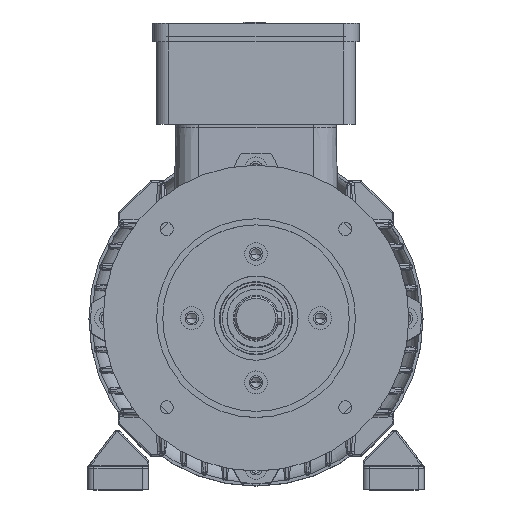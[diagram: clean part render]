
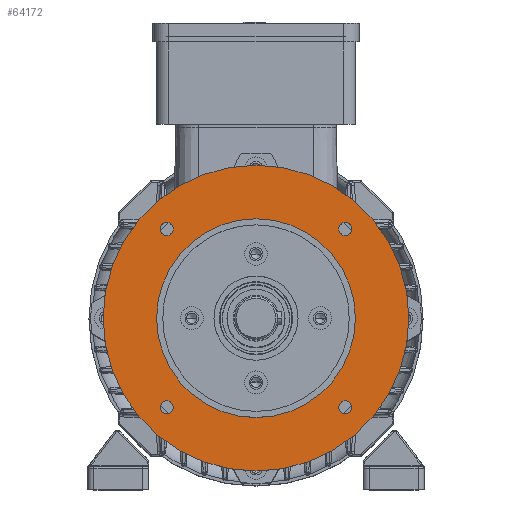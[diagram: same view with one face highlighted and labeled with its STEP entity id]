
A CAD part, top view. The second image highlights one B-rep face of the part: STEP entity #64172.
In plain terms, the highlighted planar face has unit normal (0, 0, 1).
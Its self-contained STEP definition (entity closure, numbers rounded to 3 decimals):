
#4337 = ORIENTED_EDGE ( 'NONE', *, *, #162325, .F. ) ;
#4818 = CIRCLE ( 'NONE', #63477, 4.25 ) ;
#4887 = VERTEX_POINT ( 'NONE', #17469 ) ;
#5152 = EDGE_CURVE ( 'NONE', #78979, #149502, #160268, .T. ) ;
#5793 = EDGE_LOOP ( 'NONE', ( #7430, #21487 ) ) ;
#6451 = CIRCLE ( 'NONE', #62530, 65. ) ;
#7430 = ORIENTED_EDGE ( 'NONE', *, *, #29815, .F. ) ;
#7542 = EDGE_CURVE ( 'NONE', #13965, #4887, #30207, .T. ) ;
#8618 = CARTESIAN_POINT ( 'NONE',  ( 58.336, -58.336, 165. ) ) ;
#9003 = ORIENTED_EDGE ( 'NONE', *, *, #145774, .F. ) ;
#10429 = VERTEX_POINT ( 'NONE', #141066 ) ;
#10935 = EDGE_CURVE ( 'NONE', #90461, #61532, #22640, .T. ) ;
#13743 = CARTESIAN_POINT ( 'NONE',  ( 0., 0., 165. ) ) ;
#13884 = VERTEX_POINT ( 'NONE', #31772 ) ;
#13965 = VERTEX_POINT ( 'NONE', #80776 ) ;
#14013 = DIRECTION ( 'NONE',  ( 1., 0., 0. ) ) ;
#14115 = CIRCLE ( 'NONE', #81591, 4.25 ) ;
#16010 = CARTESIAN_POINT ( 'NONE',  ( 0., 65., 165. ) ) ;
#16547 = ORIENTED_EDGE ( 'NONE', *, *, #30844, .F. ) ;
#17469 = CARTESIAN_POINT ( 'NONE',  ( -65., 0., 165. ) ) ;
#21487 = ORIENTED_EDGE ( 'NONE', *, *, #5152, .F. ) ;
#22192 = DIRECTION ( 'NONE',  ( 0., 0., 1. ) ) ;
#22548 = CARTESIAN_POINT ( 'NONE',  ( -100., 0., 165. ) ) ;
#22640 = CIRCLE ( 'NONE', #70260, 100. ) ;
#22967 = DIRECTION ( 'NONE',  ( 1., 0., 0. ) ) ;
#23935 = FACE_BOUND ( 'NONE', #132018, .T. ) ;
#24305 = DIRECTION ( 'NONE',  ( 1., 0., 0. ) ) ;
#25478 = DIRECTION ( 'NONE',  ( 1., 0., 0. ) ) ;
#26113 = EDGE_LOOP ( 'NONE', ( #47259, #154646 ) ) ;
#27738 = DIRECTION ( 'NONE',  ( 0., 0., 1. ) ) ;
#29403 = CARTESIAN_POINT ( 'NONE',  ( 62.586, 58.336, 165. ) ) ;
#29815 = EDGE_CURVE ( 'NONE', #149502, #78979, #4818, .T. ) ;
#30207 = CIRCLE ( 'NONE', #156509, 65. ) ;
#30844 = EDGE_CURVE ( 'NONE', #77495, #146293, #115921, .T. ) ;
#31772 = CARTESIAN_POINT ( 'NONE',  ( -54.086, -58.336, 165. ) ) ;
#32431 = CARTESIAN_POINT ( 'NONE',  ( 62.586, -58.336, 165. ) ) ;
#32851 = DIRECTION ( 'NONE',  ( 0., 0., 1. ) ) ;
#36094 = FACE_BOUND ( 'NONE', #113865, .T. ) ;
#38545 = CARTESIAN_POINT ( 'NONE',  ( 58.336, -58.336, 165. ) ) ;
#41324 = AXIS2_PLACEMENT_3D ( 'NONE', #16010, #131950, #80029 ) ;
#42542 = CARTESIAN_POINT ( 'NONE',  ( 0., 0., 165. ) ) ;
#47259 = ORIENTED_EDGE ( 'NONE', *, *, #7542, .F. ) ;
#47557 = DIRECTION ( 'NONE',  ( 1., 0., 0. ) ) ;
#50009 = CIRCLE ( 'NONE', #101664, 4.25 ) ;
#52563 = EDGE_CURVE ( 'NONE', #96797, #80053, #50009, .T. ) ;
#55110 = CIRCLE ( 'NONE', #148460, 100. ) ;
#61532 = VERTEX_POINT ( 'NONE', #163750 ) ;
#61992 = FACE_BOUND ( 'NONE', #154041, .T. ) ;
#62530 = AXIS2_PLACEMENT_3D ( 'NONE', #79602, #105883, #118752 ) ;
#62768 = PLANE ( 'NONE',  #41324 ) ;
#63057 = DIRECTION ( 'NONE',  ( 0., 0., 1. ) ) ;
#63477 = AXIS2_PLACEMENT_3D ( 'NONE', #8618, #108933, #47557 ) ;
#63646 = EDGE_CURVE ( 'NONE', #4887, #13965, #6451, .T. ) ;
#64172 = ADVANCED_FACE ( 'NONE', ( #61992, #36094, #133705, #23935, #155623, #145895 ), #62768, .F. ) ;
#64784 = AXIS2_PLACEMENT_3D ( 'NONE', #99364, #125532, #22967 ) ;
#68469 = EDGE_CURVE ( 'NONE', #10429, #13884, #14115, .T. ) ;
#70260 = AXIS2_PLACEMENT_3D ( 'NONE', #13743, #102400, #25478 ) ;
#71294 = AXIS2_PLACEMENT_3D ( 'NONE', #109229, #32851, #160539 ) ;
#72853 = CARTESIAN_POINT ( 'NONE',  ( 0., 0., 165. ) ) ;
#74027 = CIRCLE ( 'NONE', #155657, 4.25 ) ;
#77489 = DIRECTION ( 'NONE',  ( 0., 0., 1. ) ) ;
#77495 = VERTEX_POINT ( 'NONE', #110563 ) ;
#78979 = VERTEX_POINT ( 'NONE', #151708 ) ;
#79602 = CARTESIAN_POINT ( 'NONE',  ( 0., 0., 165. ) ) ;
#79830 = DIRECTION ( 'NONE',  ( 1., 0., 0. ) ) ;
#80029 = DIRECTION ( 'NONE',  ( -1., 0., 0. ) ) ;
#80053 = VERTEX_POINT ( 'NONE', #157070 ) ;
#80776 = CARTESIAN_POINT ( 'NONE',  ( 65., 0., 165. ) ) ;
#81591 = AXIS2_PLACEMENT_3D ( 'NONE', #91814, #27738, #116937 ) ;
#90394 = DIRECTION ( 'NONE',  ( 1., 0., 0. ) ) ;
#90461 = VERTEX_POINT ( 'NONE', #22548 ) ;
#91814 = CARTESIAN_POINT ( 'NONE',  ( -58.336, -58.336, 165. ) ) ;
#94965 = DIRECTION ( 'NONE',  ( 0., 0., 1. ) ) ;
#96797 = VERTEX_POINT ( 'NONE', #146669 ) ;
#99364 = CARTESIAN_POINT ( 'NONE',  ( 58.336, 58.336, 165. ) ) ;
#100700 = CARTESIAN_POINT ( 'NONE',  ( -58.336, -58.336, 165. ) ) ;
#101557 = CARTESIAN_POINT ( 'NONE',  ( 58.336, 58.336, 165. ) ) ;
#101664 = AXIS2_PLACEMENT_3D ( 'NONE', #153949, #77489, #117738 ) ;
#102400 = DIRECTION ( 'NONE',  ( 0., 0., 1. ) ) ;
#104876 = EDGE_CURVE ( 'NONE', #61532, #90461, #55110, .T. ) ;
#105883 = DIRECTION ( 'NONE',  ( 0., 0., 1. ) ) ;
#108933 = DIRECTION ( 'NONE',  ( 0., 0., 1. ) ) ;
#109229 = CARTESIAN_POINT ( 'NONE',  ( -58.336, 58.336, 165. ) ) ;
#110331 = CIRCLE ( 'NONE', #113650, 4.25 ) ;
#110563 = CARTESIAN_POINT ( 'NONE',  ( 54.086, 58.336, 165. ) ) ;
#112986 = ORIENTED_EDGE ( 'NONE', *, *, #104876, .T. ) ;
#113650 = AXIS2_PLACEMENT_3D ( 'NONE', #100700, #138047, #24305 ) ;
#113865 = EDGE_LOOP ( 'NONE', ( #135992, #134670 ) ) ;
#115921 = CIRCLE ( 'NONE', #64784, 4.25 ) ;
#116937 = DIRECTION ( 'NONE',  ( 1., 0., 0. ) ) ;
#117738 = DIRECTION ( 'NONE',  ( 1., 0., 0. ) ) ;
#118752 = DIRECTION ( 'NONE',  ( 1., 0., 0. ) ) ;
#125532 = DIRECTION ( 'NONE',  ( 0., 0., 1. ) ) ;
#128329 = DIRECTION ( 'NONE',  ( 0., 0., 1. ) ) ;
#131950 = DIRECTION ( 'NONE',  ( 0., 0., -1. ) ) ;
#132018 = EDGE_LOOP ( 'NONE', ( #4337, #16547 ) ) ;
#132651 = CIRCLE ( 'NONE', #71294, 4.25 ) ;
#133705 = FACE_BOUND ( 'NONE', #5793, .T. ) ;
#134670 = ORIENTED_EDGE ( 'NONE', *, *, #68469, .F. ) ;
#135992 = ORIENTED_EDGE ( 'NONE', *, *, #160299, .F. ) ;
#137054 = ORIENTED_EDGE ( 'NONE', *, *, #10935, .T. ) ;
#138047 = DIRECTION ( 'NONE',  ( 0., 0., 1. ) ) ;
#141066 = CARTESIAN_POINT ( 'NONE',  ( -62.586, -58.336, 165. ) ) ;
#141152 = ORIENTED_EDGE ( 'NONE', *, *, #52563, .F. ) ;
#143837 = EDGE_LOOP ( 'NONE', ( #112986, #137054 ) ) ;
#145774 = EDGE_CURVE ( 'NONE', #80053, #96797, #132651, .T. ) ;
#145895 = FACE_OUTER_BOUND ( 'NONE', #143837, .T. ) ;
#146293 = VERTEX_POINT ( 'NONE', #29403 ) ;
#146669 = CARTESIAN_POINT ( 'NONE',  ( -62.586, 58.336, 165. ) ) ;
#148460 = AXIS2_PLACEMENT_3D ( 'NONE', #72853, #22192, #149819 ) ;
#149502 = VERTEX_POINT ( 'NONE', #32431 ) ;
#149819 = DIRECTION ( 'NONE',  ( 1., 0., 0. ) ) ;
#151708 = CARTESIAN_POINT ( 'NONE',  ( 54.086, -58.336, 165. ) ) ;
#153949 = CARTESIAN_POINT ( 'NONE',  ( -58.336, 58.336, 165. ) ) ;
#154041 = EDGE_LOOP ( 'NONE', ( #9003, #141152 ) ) ;
#154646 = ORIENTED_EDGE ( 'NONE', *, *, #63646, .F. ) ;
#155623 = FACE_BOUND ( 'NONE', #26113, .T. ) ;
#155657 = AXIS2_PLACEMENT_3D ( 'NONE', #101557, #128329, #14013 ) ;
#156287 = AXIS2_PLACEMENT_3D ( 'NONE', #38545, #63057, #90394 ) ;
#156509 = AXIS2_PLACEMENT_3D ( 'NONE', #42542, #94965, #79830 ) ;
#157070 = CARTESIAN_POINT ( 'NONE',  ( -54.086, 58.336, 165. ) ) ;
#160268 = CIRCLE ( 'NONE', #156287, 4.25 ) ;
#160299 = EDGE_CURVE ( 'NONE', #13884, #10429, #110331, .T. ) ;
#160539 = DIRECTION ( 'NONE',  ( 1., 0., 0. ) ) ;
#162325 = EDGE_CURVE ( 'NONE', #146293, #77495, #74027, .T. ) ;
#163750 = CARTESIAN_POINT ( 'NONE',  ( 100., 0., 165. ) ) ;
